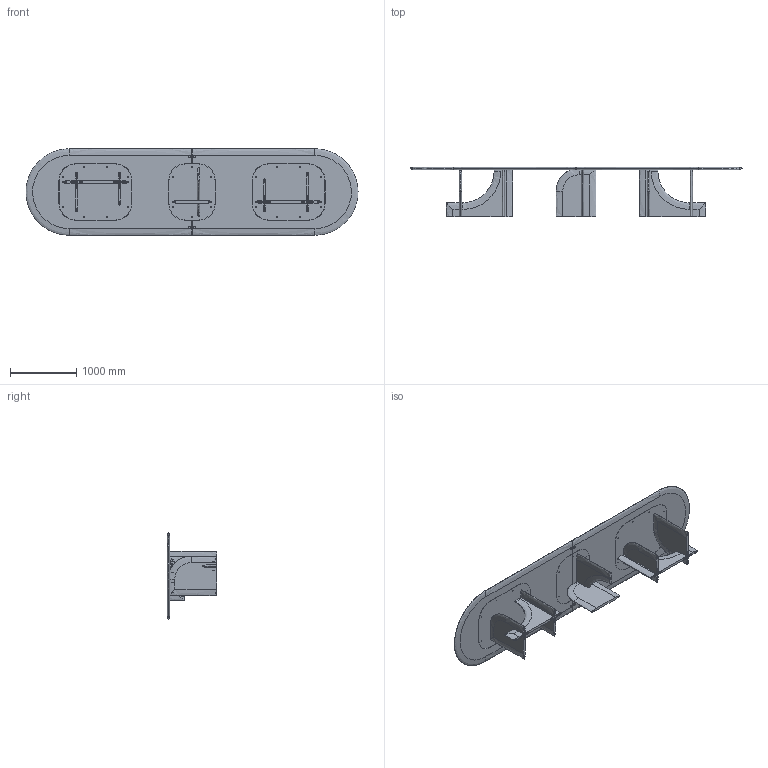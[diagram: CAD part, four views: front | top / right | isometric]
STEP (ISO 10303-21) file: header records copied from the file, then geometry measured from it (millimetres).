
FILE_DESCRIPTION (( 'STEP AP214' ), '1' );
FILE_NAME ('SELCE-T_5003.STEP', '2025-05-29T10:32:28', ( '' ), ( '' ), 'SwSTEP 2.0', 'SolidWorks 2023', '' );
FILE_SCHEMA (( 'AUTOMOTIVE_DESIGN' ));
Length unit declared in the file: millimetre
Products named in the file (9): GAMBE e PIASTRA_GAMBA B; SCIVOLO_IPEA_20PTPD007N; CROCE FERRO; SELCE-T_5003; GAMBE e PIASTRA_PIASTRA A; GAMBE e PIASTRA_PIASTRA B; GAMBE e PIASTRA_GAMBA A; TOP_MODULARE_MODULARE 5000 x 1300; PIATTO_METALLO_GIUNZIONE_TOP_MODULARE
Assembly tree (31 placements, depth 2):
  SELCE-T_5003
    TOP_MODULARE_MODULARE 5000 x 1300  x2
    GAMBE e PIASTRA_GAMBA A  x2
    GAMBE e PIASTRA_GAMBA B
    GAMBE e PIASTRA_PIASTRA A  x2
    GAMBE e PIASTRA_PIASTRA B
    CROCE FERRO  x7
    SCIVOLO_IPEA_20PTPD007N  x15
    PIATTO_METALLO_GIUNZIONE_TOP_MODULARE
Bounding box: 5002.03 x 749 x 1300 mm (x, y, z)
Volume: 339789428 mm3; surface area: 23822601.3 mm2
Topology: 41 solids, 41 shells, 1602 faces, 4119 edges, 2533 vertices
Faces by surface type: cylinder 614, plane 499, cone 316, bspline 173
Entity records: 27246 total; most frequent: CARTESIAN_POINT 9398, DIRECTION 3601, ORIENTED_EDGE 3594, EDGE_CURVE 1797, AXIS2_PLACEMENT_3D 1333, VERTEX_POINT 1151, VECTOR 935, LINE 935
